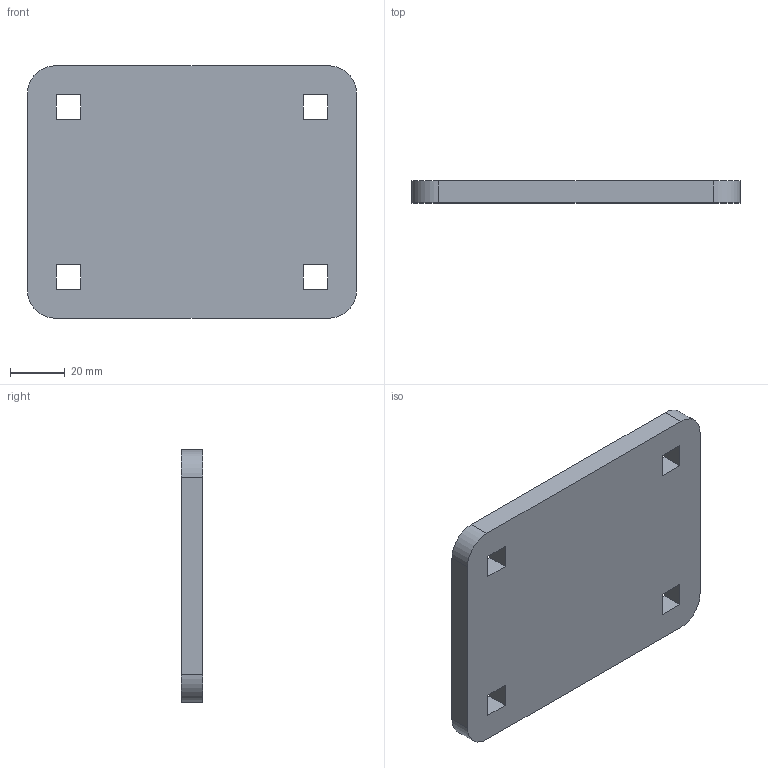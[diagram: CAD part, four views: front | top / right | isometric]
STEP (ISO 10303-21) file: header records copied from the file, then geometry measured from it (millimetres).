
FILE_DESCRIPTION(/* description */ (''),/* implementation_level */ '2;1');
FILE_NAME(/* name */ 'Part_3_ver1.step',/* time_stamp */ '2026-07-24T14:37:46+02:00',/* author */ ('dariu'),/* organization */ (''),/* preprocessor_version */ 'ST-DEVELOPER v20.1',/* originating_system */ 'Autodesk Inventor 2026',/* authorisation */ '');
FILE_SCHEMA (('AUTOMOTIVE_DESIGN { 1 0 10303 214 3 1 1 }'));
Length unit declared in the file: millimetre
Products named in the file (1): Part_3_ver1
Bounding box: 120 x 8 x 92 mm (x, y, z)
Volume: 85041.3 mm3; surface area: 25667 mm2
Topology: 1 solids, 1 shells, 26 faces, 72 edges, 48 vertices
Faces by surface type: plane 22, cylinder 4
Entity records: 883 total; most frequent: CARTESIAN_POINT 147, ORIENTED_EDGE 144, DIRECTION 134, EDGE_CURVE 72, LINE 64, VECTOR 64, VERTEX_POINT 48, AXIS2_PLACEMENT_3D 35
